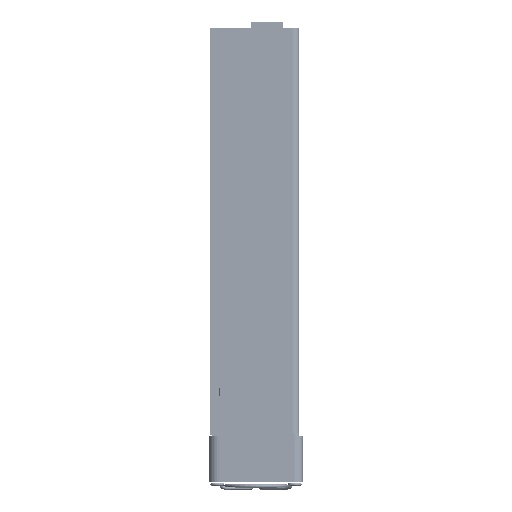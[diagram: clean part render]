
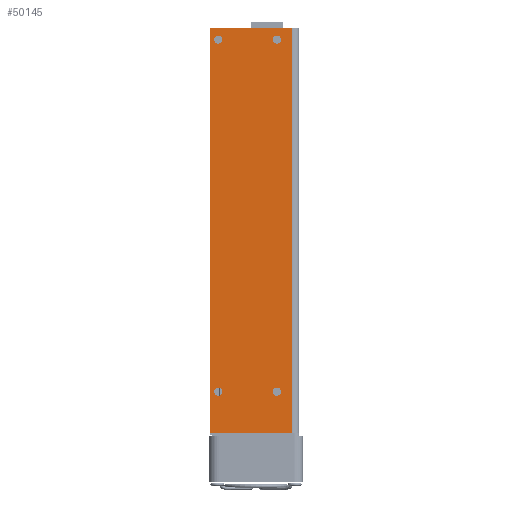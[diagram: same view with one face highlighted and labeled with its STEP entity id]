
A CAD part, left-side view. The second image highlights one B-rep face of the part: STEP entity #50145.
In plain terms, the highlighted planar face has unit normal (-1, 0, 0).
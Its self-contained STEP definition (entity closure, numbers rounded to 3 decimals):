
#49811 = EDGE_CURVE ( 'NONE', #49815, #49909, #97696, .T. ) ;
#49815 = VERTEX_POINT ( 'NONE', #97702 ) ;
#49909 = VERTEX_POINT ( 'NONE', #97851 ) ;
#49991 = VERTEX_POINT ( 'NONE', #97883 ) ;
#49993 = EDGE_CURVE ( 'NONE', #49991, #50025, #97892, .T. ) ;
#50000 = VERTEX_POINT ( 'NONE', #97992 ) ;
#50012 = VERTEX_POINT ( 'NONE', #97981 ) ;
#50022 = EDGE_CURVE ( 'NONE', #50023, #50012, #97982, .T. ) ;
#50023 = VERTEX_POINT ( 'NONE', #97965 ) ;
#50025 = VERTEX_POINT ( 'NONE', #97975 ) ;
#50117 = EDGE_CURVE ( 'NONE', #50119, #50000, #98106, .T. ) ;
#50119 = VERTEX_POINT ( 'NONE', #98101 ) ;
#50128 = EDGE_CURVE ( 'NONE', #50131, #50264, #98090, .T. ) ;
#50131 = VERTEX_POINT ( 'NONE', #98151 ) ;
#50135 = EDGE_CURVE ( 'NONE', #50025, #49991, #98152, .T. ) ;
#50137 = EDGE_CURVE ( 'NONE', #50131, #50265, #98138, .T. ) ;
#50139 = EDGE_CURVE ( 'NONE', #49909, #49815, #98145, .T. ) ;
#50141 = EDGE_LOOP ( 'NONE', ( #50246, #50251 ) ) ;
#50144 = ORIENTED_EDGE ( 'NONE', *, *, #50137, .T. ) ;
#50145 = ADVANCED_FACE ( 'NONE', ( #98089, #98149, #98143, #98131, #98126 ), #98142, .F. ) ;
#50148 = ORIENTED_EDGE ( 'NONE', *, *, #50022, .T. ) ;
#50150 = EDGE_CURVE ( 'NONE', #50000, #50119, #98124, .T. ) ;
#50153 = EDGE_LOOP ( 'NONE', ( #50260, #50273, #50271, #50144 ) ) ;
#50158 = ORIENTED_EDGE ( 'NONE', *, *, #50117, .T. ) ;
#50162 = ORIENTED_EDGE ( 'NONE', *, *, #50187, .T. ) ;
#50177 = ORIENTED_EDGE ( 'NONE', *, *, #50150, .T. ) ;
#50185 = EDGE_LOOP ( 'NONE', ( #50158, #50177 ) ) ;
#50187 = EDGE_CURVE ( 'NONE', #50012, #50023, #98219, .T. ) ;
#50203 = EDGE_LOOP ( 'NONE', ( #50148, #50162 ) ) ;
#50238 = ORIENTED_EDGE ( 'NONE', *, *, #49993, .T. ) ;
#50244 = ORIENTED_EDGE ( 'NONE', *, *, #50135, .T. ) ;
#50246 = ORIENTED_EDGE ( 'NONE', *, *, #49811, .T. ) ;
#50251 = ORIENTED_EDGE ( 'NONE', *, *, #50139, .T. ) ;
#50260 = ORIENTED_EDGE ( 'NONE', *, *, #50262, .T. ) ;
#50261 = EDGE_CURVE ( 'NONE', #50264, #50269, #98224, .T. ) ;
#50262 = EDGE_CURVE ( 'NONE', #50265, #50269, #98278, .T. ) ;
#50264 = VERTEX_POINT ( 'NONE', #98277 ) ;
#50265 = VERTEX_POINT ( 'NONE', #98276 ) ;
#50267 = EDGE_LOOP ( 'NONE', ( #50238, #50244 ) ) ;
#50269 = VERTEX_POINT ( 'NONE', #98231 ) ;
#50271 = ORIENTED_EDGE ( 'NONE', *, *, #50128, .F. ) ;
#50273 = ORIENTED_EDGE ( 'NONE', *, *, #50261, .F. ) ;
#97695 = AXIS2_PLACEMENT_3D ( 'NONE', #97746, #97745, #97744 ) ;
#97696 = CIRCLE ( 'NONE', #97695, 1.75 ) ;
#97702 = CARTESIAN_POINT ( 'NONE',  ( -40.65, 13.75, -68.65 ) ) ;
#97744 = DIRECTION ( 'NONE',  ( 0., -1., 0. ) ) ;
#97745 = DIRECTION ( 'NONE',  ( 1., 0., 0. ) ) ;
#97746 = CARTESIAN_POINT ( 'NONE',  ( -40.65, 15.5, -68.65 ) ) ;
#97851 = CARTESIAN_POINT ( 'NONE',  ( -40.65, 17.25, -68.65 ) ) ;
#97883 = CARTESIAN_POINT ( 'NONE',  ( -40.65, 13.75, 81.35 ) ) ;
#97892 = CIRCLE ( 'NONE', #97933, 1.75 ) ;
#97931 = DIRECTION ( 'NONE',  ( 0., -1., 0. ) ) ;
#97932 = DIRECTION ( 'NONE',  ( 1., 0., 0. ) ) ;
#97933 = AXIS2_PLACEMENT_3D ( 'NONE', #97950, #97932, #97931 ) ;
#97950 = CARTESIAN_POINT ( 'NONE',  ( -40.65, 15.5, 81.35 ) ) ;
#97965 = CARTESIAN_POINT ( 'NONE',  ( -40.65, -11.25, -68.65 ) ) ;
#97968 = AXIS2_PLACEMENT_3D ( 'NONE', #98018, #98017, #98016 ) ;
#97975 = CARTESIAN_POINT ( 'NONE',  ( -40.65, 17.25, 81.35 ) ) ;
#97981 = CARTESIAN_POINT ( 'NONE',  ( -40.65, -7.75, -68.65 ) ) ;
#97982 = CIRCLE ( 'NONE', #97968, 1.75 ) ;
#97992 = CARTESIAN_POINT ( 'NONE',  ( -40.65, -7.75, 81.35 ) ) ;
#98016 = DIRECTION ( 'NONE',  ( 0., -1., 0. ) ) ;
#98017 = DIRECTION ( 'NONE',  ( 1., 0., 0. ) ) ;
#98018 = CARTESIAN_POINT ( 'NONE',  ( -40.65, -9.5, -68.65 ) ) ;
#98087 = AXIS2_PLACEMENT_3D ( 'NONE', #98150, #98141, #98140 ) ;
#98089 = FACE_BOUND ( 'NONE', #50203, .T. ) ;
#98090 = LINE ( 'NONE', #98155, #98154 ) ;
#98098 = DIRECTION ( 'NONE',  ( 0., -1., 0. ) ) ;
#98099 = DIRECTION ( 'NONE',  ( 1., 0., 0. ) ) ;
#98100 = AXIS2_PLACEMENT_3D ( 'NONE', #98105, #98099, #98098 ) ;
#98101 = CARTESIAN_POINT ( 'NONE',  ( -40.65, -11.25, 81.35 ) ) ;
#98105 = CARTESIAN_POINT ( 'NONE',  ( -40.65, -9.5, 81.35 ) ) ;
#98106 = CIRCLE ( 'NONE', #98100, 1.75 ) ;
#98120 = DIRECTION ( 'NONE',  ( 1., 0., 0. ) ) ;
#98121 = AXIS2_PLACEMENT_3D ( 'NONE', #98134, #98120, #98184 ) ;
#98124 = CIRCLE ( 'NONE', #98181, 1.75 ) ;
#98126 = FACE_BOUND ( 'NONE', #50141, .T. ) ;
#98127 = DIRECTION ( 'NONE',  ( 0., -1., 0. ) ) ;
#98128 = DIRECTION ( 'NONE',  ( 1., 0., 0. ) ) ;
#98131 = FACE_BOUND ( 'NONE', #50267, .T. ) ;
#98133 = CARTESIAN_POINT ( 'NONE',  ( -40.65, 15.5, -68.65 ) ) ;
#98134 = CARTESIAN_POINT ( 'NONE',  ( -40.65, 19., 86.35 ) ) ;
#98135 = DIRECTION ( 'NONE',  ( 0., 0., -1. ) ) ;
#98136 = VECTOR ( 'NONE', #98135, 1000. ) ;
#98137 = CARTESIAN_POINT ( 'NONE',  ( -40.65, 19., 86.35 ) ) ;
#98138 = LINE ( 'NONE', #98137, #98136 ) ;
#98140 = DIRECTION ( 'NONE',  ( 0., -1., 0. ) ) ;
#98141 = DIRECTION ( 'NONE',  ( 1., 0., 0. ) ) ;
#98142 = PLANE ( 'NONE',  #98121 ) ;
#98143 = FACE_OUTER_BOUND ( 'NONE', #50153, .T. ) ;
#98144 = AXIS2_PLACEMENT_3D ( 'NONE', #98133, #98128, #98127 ) ;
#98145 = CIRCLE ( 'NONE', #98144, 1.75 ) ;
#98149 = FACE_BOUND ( 'NONE', #50185, .T. ) ;
#98150 = CARTESIAN_POINT ( 'NONE',  ( -40.65, 15.5, 81.35 ) ) ;
#98151 = CARTESIAN_POINT ( 'NONE',  ( -40.65, 19., 86.35 ) ) ;
#98152 = CIRCLE ( 'NONE', #98087, 1.75 ) ;
#98153 = DIRECTION ( 'NONE',  ( 0., -1., 0. ) ) ;
#98154 = VECTOR ( 'NONE', #98153, 1000. ) ;
#98155 = CARTESIAN_POINT ( 'NONE',  ( -40.65, 19., 86.35 ) ) ;
#98178 = DIRECTION ( 'NONE',  ( 0., -1., 0. ) ) ;
#98179 = DIRECTION ( 'NONE',  ( 1., 0., 0. ) ) ;
#98180 = CARTESIAN_POINT ( 'NONE',  ( -40.65, -9.5, 81.35 ) ) ;
#98181 = AXIS2_PLACEMENT_3D ( 'NONE', #98180, #98179, #98178 ) ;
#98184 = DIRECTION ( 'NONE',  ( 0., 1., 0. ) ) ;
#98215 = DIRECTION ( 'NONE',  ( 0., -1., 0. ) ) ;
#98216 = DIRECTION ( 'NONE',  ( 1., 0., 0. ) ) ;
#98217 = CARTESIAN_POINT ( 'NONE',  ( -40.65, -9.5, -68.65 ) ) ;
#98218 = AXIS2_PLACEMENT_3D ( 'NONE', #98217, #98216, #98215 ) ;
#98219 = CIRCLE ( 'NONE', #98218, 1.75 ) ;
#98223 = CARTESIAN_POINT ( 'NONE',  ( -40.65, -16., 86.35 ) ) ;
#98224 = LINE ( 'NONE', #98223, #98280 ) ;
#98231 = CARTESIAN_POINT ( 'NONE',  ( -40.65, -16., -86.35 ) ) ;
#98273 = DIRECTION ( 'NONE',  ( 0., -1., 0. ) ) ;
#98274 = VECTOR ( 'NONE', #98273, 1000. ) ;
#98275 = CARTESIAN_POINT ( 'NONE',  ( -40.65, 19., -86.35 ) ) ;
#98276 = CARTESIAN_POINT ( 'NONE',  ( -40.65, 19., -86.35 ) ) ;
#98277 = CARTESIAN_POINT ( 'NONE',  ( -40.65, -16., 86.35 ) ) ;
#98278 = LINE ( 'NONE', #98275, #98274 ) ;
#98279 = DIRECTION ( 'NONE',  ( 0., 0., -1. ) ) ;
#98280 = VECTOR ( 'NONE', #98279, 1000. ) ;
